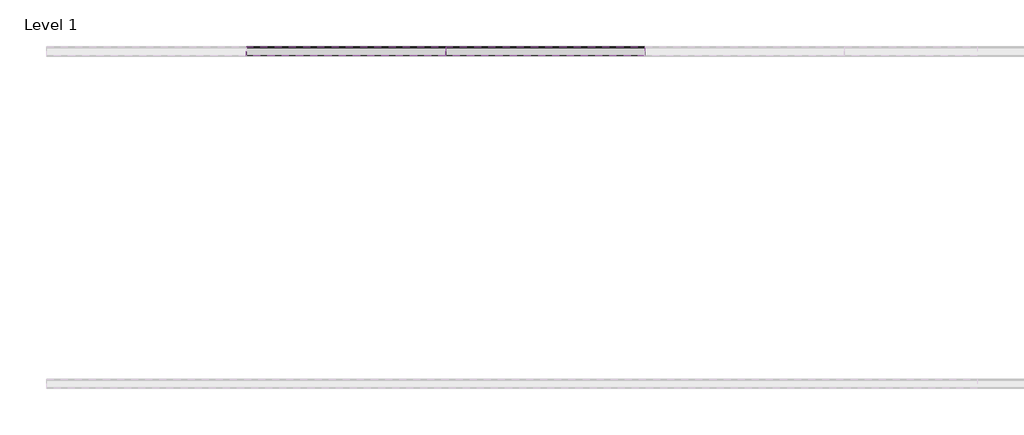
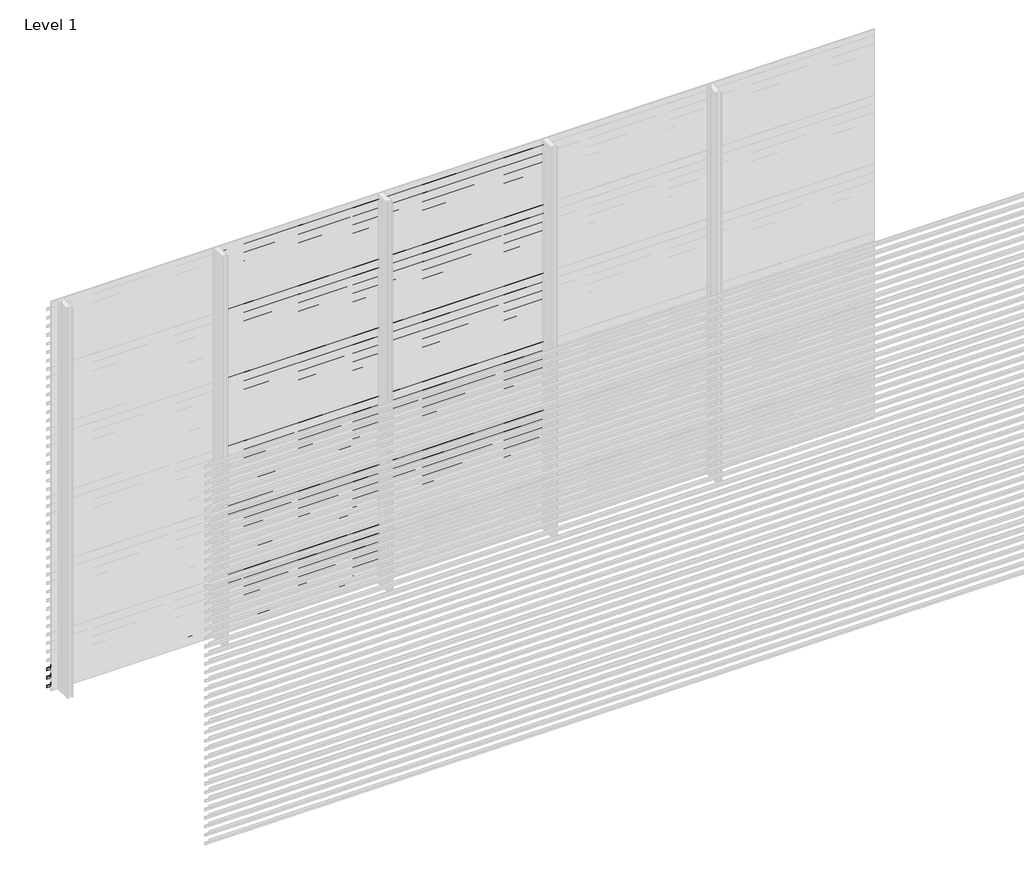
# One storey, part 26 of 540: 84 proxies.
"""IFC4 building model written with IfcOpenShell, lengths in millimetres."""

from ifc_helpers import new_model, si_unit, frame, origin, place, context, project, spatial, polyline, outline, extrude, element, save

model = new_model("IFC4")

# Units and contexts
model_context = context("Model", 3, world=origin())
ifc_project = project(units=[si_unit("LENGTHUNIT", "METRE", prefix="MILLI")], contexts=[model_context])

# Site, building, storey
site = spatial("IfcSite", under=ifc_project)
building = spatial("IfcBuilding", under=site)
storey = spatial("IfcBuildingStorey", under=building, Name="Level 1", Elevation=0.0)

# Proxies
placement = place(None, origin())
element("IfcBuildingElementProxy", 1, Name="Wall Sweeps", at=placement, inside=storey, context=model_context, shape_type="SweptSolid", body=[
    extrude(outline(polyline([(14038.0540136, 141.5), (14038.0540136, 121.5), (14036.8040136, 122.2216933), (14036.8040136, 140.7872415), (13983.0540136, 178.3158044), (13983.0540136, 198.0), (13984.3040136, 198.0), (13984.3040136, 179.0285629), (14038.0540136, 141.5)])), frame((466.6208097, 0.0, 0.0), z_axis=(1.0, 0.0, 0.0), x_axis=(0.0, 1.0, 0.0)), (0.0, 0.0, 1.0), 1200.0000002),
])
element("IfcBuildingElementProxy", 2, Name="Wall Sweeps", at=placement, inside=storey, context=model_context, shape_type="SweptSolid", body=[
    extrude(outline(polyline([(14038.0540136, 75.5), (14038.0540136, 55.5), (14036.8040136, 56.2216933), (14036.8040136, 74.7872415), (13983.0540136, 112.3158044), (13983.0540136, 132.0), (13984.3040136, 132.0), (13984.3040136, 113.0285629), (14038.0540136, 75.5)])), frame((466.6208097, 0.0, 0.0), z_axis=(1.0, 0.0, 0.0), x_axis=(0.0, 1.0, 0.0)), (0.0, 0.0, 1.0), 1200.0000002),
])
element("IfcBuildingElementProxy", 3, Name="Wall Sweeps", at=placement, inside=storey, context=model_context, shape_type="SweptSolid", body=[
    extrude(outline(polyline([(14038.0540136, 9.5), (14038.0540136, -10.5), (14036.8040136, -9.7783067), (14036.8040136, 8.7872415), (13983.0540136, 46.3158044), (13983.0540136, 66.0), (13984.3040136, 66.0), (13984.3040136, 47.0285629), (14038.0540136, 9.5)])), frame((466.6208097, 0.0, 0.0), z_axis=(1.0, 0.0, 0.0), x_axis=(0.0, 1.0, 0.0)), (0.0, 0.0, 1.0), 1200.0000002),
])
element("IfcBuildingElementProxy", 4, Name="Wall Sweeps", at=placement, inside=storey, context=model_context, shape_type="SweptSolid", body=[
    extrude(outline(polyline([(14038.0540136, 2913.5), (14038.0540136, 2893.5), (14036.8040136, 2894.2216933), (14036.8040136, 2912.7872415), (13983.0540136, 2950.3158044), (13983.0540136, 2970.0), (13984.3040136, 2970.0), (13984.3040136, 2951.0285629), (14038.0540136, 2913.5)])), frame((1666.6208099, 0.0, 0.0), z_axis=(1.0, 0.0, 0.0), x_axis=(0.0, 1.0, 0.0)), (0.0, 0.0, 1.0), 1199.9999999),
])
element("IfcBuildingElementProxy", 5, Name="Wall Sweeps", at=placement, inside=storey, context=model_context, shape_type="SweptSolid", body=[
    extrude(outline(polyline([(14038.0540136, 2847.5), (14038.0540136, 2827.5), (14036.8040136, 2828.2216933), (14036.8040136, 2846.7872415), (13983.0540136, 2884.3158044), (13983.0540136, 2904.0), (13984.3040136, 2904.0), (13984.3040136, 2885.0285629), (14038.0540136, 2847.5)])), frame((1666.6208099, 0.0, 0.0), z_axis=(1.0, 0.0, 0.0), x_axis=(0.0, 1.0, 0.0)), (0.0, 0.0, 1.0), 1199.9999999),
])
element("IfcBuildingElementProxy", 6, Name="Wall Sweeps", at=placement, inside=storey, context=model_context, shape_type="SweptSolid", body=[
    extrude(outline(polyline([(14038.0540136, 2781.5), (14038.0540136, 2761.5), (14036.8040136, 2762.2216933), (14036.8040136, 2780.7872415), (13983.0540136, 2818.3158044), (13983.0540136, 2838.0), (13984.3040136, 2838.0), (13984.3040136, 2819.0285629), (14038.0540136, 2781.5)])), frame((1666.6208099, 0.0, 0.0), z_axis=(1.0, 0.0, 0.0), x_axis=(0.0, 1.0, 0.0)), (0.0, 0.0, 1.0), 1199.9999999),
])
element("IfcBuildingElementProxy", 7, Name="Wall Sweeps", at=placement, inside=storey, context=model_context, shape_type="SweptSolid", body=[
    extrude(outline(polyline([(14038.0540136, 2715.5), (14038.0540136, 2695.5), (14036.8040136, 2696.2216933), (14036.8040136, 2714.7872415), (13983.0540136, 2752.3158044), (13983.0540136, 2772.0), (13984.3040136, 2772.0), (13984.3040136, 2753.0285629), (14038.0540136, 2715.5)])), frame((1666.6208099, 0.0, 0.0), z_axis=(1.0, 0.0, 0.0), x_axis=(0.0, 1.0, 0.0)), (0.0, 0.0, 1.0), 1199.9999999),
])
element("IfcBuildingElementProxy", 8, Name="Wall Sweeps", at=placement, inside=storey, context=model_context, shape_type="SweptSolid", body=[
    extrude(outline(polyline([(14038.0540136, 2649.5), (14038.0540136, 2629.5), (14036.8040136, 2630.2216933), (14036.8040136, 2648.7872415), (13983.0540136, 2686.3158044), (13983.0540136, 2706.0), (13984.3040136, 2706.0), (13984.3040136, 2687.0285629), (14038.0540136, 2649.5)])), frame((1666.6208099, 0.0, 0.0), z_axis=(1.0, 0.0, 0.0), x_axis=(0.0, 1.0, 0.0)), (0.0, 0.0, 1.0), 1199.9999999),
])
element("IfcBuildingElementProxy", 9, Name="Wall Sweeps", at=placement, inside=storey, context=model_context, shape_type="SweptSolid", body=[
    extrude(outline(polyline([(14038.0540136, 2583.5), (14038.0540136, 2563.5), (14036.8040136, 2564.2216933), (14036.8040136, 2582.7872415), (13983.0540136, 2620.3158044), (13983.0540136, 2640.0), (13984.3040136, 2640.0), (13984.3040136, 2621.0285629), (14038.0540136, 2583.5)])), frame((1666.6208099, 0.0, 0.0), z_axis=(1.0, 0.0, 0.0), x_axis=(0.0, 1.0, 0.0)), (0.0, 0.0, 1.0), 1199.9999999),
])
element("IfcBuildingElementProxy", 10, Name="Wall Sweeps", at=placement, inside=storey, context=model_context, shape_type="SweptSolid", body=[
    extrude(outline(polyline([(14038.0540136, 2517.5), (14038.0540136, 2497.5), (14036.8040136, 2498.2216933), (14036.8040136, 2516.7872415), (13983.0540136, 2554.3158044), (13983.0540136, 2574.0), (13984.3040136, 2574.0), (13984.3040136, 2555.0285629), (14038.0540136, 2517.5)])), frame((1666.6208099, 0.0, 0.0), z_axis=(1.0, 0.0, 0.0), x_axis=(0.0, 1.0, 0.0)), (0.0, 0.0, 1.0), 1199.9999999),
])
element("IfcBuildingElementProxy", 11, Name="Wall Sweeps", at=placement, inside=storey, context=model_context, shape_type="SweptSolid", body=[
    extrude(outline(polyline([(14038.0540136, 2451.5), (14038.0540136, 2431.5), (14036.8040136, 2432.2216933), (14036.8040136, 2450.7872415), (13983.0540136, 2488.3158044), (13983.0540136, 2508.0), (13984.3040136, 2508.0), (13984.3040136, 2489.0285629), (14038.0540136, 2451.5)])), frame((1666.6208099, 0.0, 0.0), z_axis=(1.0, 0.0, 0.0), x_axis=(0.0, 1.0, 0.0)), (0.0, 0.0, 1.0), 1199.9999999),
])
element("IfcBuildingElementProxy", 12, Name="Wall Sweeps", at=placement, inside=storey, context=model_context, shape_type="SweptSolid", body=[
    extrude(outline(polyline([(14038.0540136, 2385.5), (14038.0540136, 2365.5), (14036.8040136, 2366.2216933), (14036.8040136, 2384.7872415), (13983.0540136, 2422.3158044), (13983.0540136, 2442.0), (13984.3040136, 2442.0), (13984.3040136, 2423.0285629), (14038.0540136, 2385.5)])), frame((1666.6208099, 0.0, 0.0), z_axis=(1.0, 0.0, 0.0), x_axis=(0.0, 1.0, 0.0)), (0.0, 0.0, 1.0), 1199.9999999),
])
element("IfcBuildingElementProxy", 13, Name="Wall Sweeps", at=placement, inside=storey, context=model_context, shape_type="SweptSolid", body=[
    extrude(outline(polyline([(14038.0540136, 2319.5), (14038.0540136, 2299.5), (14036.8040136, 2300.2216933), (14036.8040136, 2318.7872415), (13983.0540136, 2356.3158044), (13983.0540136, 2376.0), (13984.3040136, 2376.0), (13984.3040136, 2357.0285629), (14038.0540136, 2319.5)])), frame((1666.6208099, 0.0, 0.0), z_axis=(1.0, 0.0, 0.0), x_axis=(0.0, 1.0, 0.0)), (0.0, 0.0, 1.0), 1199.9999999),
])
element("IfcBuildingElementProxy", 14, Name="Wall Sweeps", at=placement, inside=storey, context=model_context, shape_type="SweptSolid", body=[
    extrude(outline(polyline([(14038.0540136, 2253.5), (14038.0540136, 2233.5), (14036.8040136, 2234.2216933), (14036.8040136, 2252.7872415), (13983.0540136, 2290.3158044), (13983.0540136, 2310.0), (13984.3040136, 2310.0), (13984.3040136, 2291.0285629), (14038.0540136, 2253.5)])), frame((1666.6208099, 0.0, 0.0), z_axis=(1.0, 0.0, 0.0), x_axis=(0.0, 1.0, 0.0)), (0.0, 0.0, 1.0), 1199.9999999),
])
element("IfcBuildingElementProxy", 15, Name="Wall Sweeps", at=placement, inside=storey, context=model_context, shape_type="SweptSolid", body=[
    extrude(outline(polyline([(14038.0540136, 2187.5), (14038.0540136, 2167.5), (14036.8040136, 2168.2216933), (14036.8040136, 2186.7872415), (13983.0540136, 2224.3158044), (13983.0540136, 2244.0), (13984.3040136, 2244.0), (13984.3040136, 2225.0285629), (14038.0540136, 2187.5)])), frame((1666.6208099, 0.0, 0.0), z_axis=(1.0, 0.0, 0.0), x_axis=(0.0, 1.0, 0.0)), (0.0, 0.0, 1.0), 1199.9999999),
])
element("IfcBuildingElementProxy", 16, Name="Wall Sweeps", at=placement, inside=storey, context=model_context, shape_type="SweptSolid", body=[
    extrude(outline(polyline([(14038.0540136, 2121.5), (14038.0540136, 2101.5), (14036.8040136, 2102.2216933), (14036.8040136, 2120.7872415), (13983.0540136, 2158.3158044), (13983.0540136, 2178.0), (13984.3040136, 2178.0), (13984.3040136, 2159.0285629), (14038.0540136, 2121.5)])), frame((1666.6208099, 0.0, 0.0), z_axis=(1.0, 0.0, 0.0), x_axis=(0.0, 1.0, 0.0)), (0.0, 0.0, 1.0), 1199.9999999),
])
element("IfcBuildingElementProxy", 17, Name="Wall Sweeps", at=placement, inside=storey, context=model_context, shape_type="SweptSolid", body=[
    extrude(outline(polyline([(14038.0540136, 2055.5), (14038.0540136, 2035.5), (14036.8040136, 2036.2216933), (14036.8040136, 2054.7872415), (13983.0540136, 2092.3158044), (13983.0540136, 2112.0), (13984.3040136, 2112.0), (13984.3040136, 2093.0285629), (14038.0540136, 2055.5)])), frame((1666.6208099, 0.0, 0.0), z_axis=(1.0, 0.0, 0.0), x_axis=(0.0, 1.0, 0.0)), (0.0, 0.0, 1.0), 1199.9999999),
])
element("IfcBuildingElementProxy", 18, Name="Wall Sweeps", at=placement, inside=storey, context=model_context, shape_type="SweptSolid", body=[
    extrude(outline(polyline([(14038.0540136, 1989.5), (14038.0540136, 1969.5), (14036.8040136, 1970.2216933), (14036.8040136, 1988.7872415), (13983.0540136, 2026.3158044), (13983.0540136, 2046.0), (13984.3040136, 2046.0), (13984.3040136, 2027.0285629), (14038.0540136, 1989.5)])), frame((1666.6208099, 0.0, 0.0), z_axis=(1.0, 0.0, 0.0), x_axis=(0.0, 1.0, 0.0)), (0.0, 0.0, 1.0), 1199.9999999),
])
element("IfcBuildingElementProxy", 19, Name="Wall Sweeps", at=placement, inside=storey, context=model_context, shape_type="SweptSolid", body=[
    extrude(outline(polyline([(14038.0540136, 1923.5), (14038.0540136, 1903.5), (14036.8040136, 1904.2216933), (14036.8040136, 1922.7872415), (13983.0540136, 1960.3158044), (13983.0540136, 1980.0), (13984.3040136, 1980.0), (13984.3040136, 1961.0285629), (14038.0540136, 1923.5)])), frame((1666.6208099, 0.0, 0.0), z_axis=(1.0, 0.0, 0.0), x_axis=(0.0, 1.0, 0.0)), (0.0, 0.0, 1.0), 1199.9999999),
])
element("IfcBuildingElementProxy", 20, Name="Wall Sweeps", at=placement, inside=storey, context=model_context, shape_type="SweptSolid", body=[
    extrude(outline(polyline([(14038.0540136, 1857.5), (14038.0540136, 1837.5), (14036.8040136, 1838.2216933), (14036.8040136, 1856.7872415), (13983.0540136, 1894.3158044), (13983.0540136, 1914.0), (13984.3040136, 1914.0), (13984.3040136, 1895.0285629), (14038.0540136, 1857.5)])), frame((1666.6208099, 0.0, 0.0), z_axis=(1.0, 0.0, 0.0), x_axis=(0.0, 1.0, 0.0)), (0.0, 0.0, 1.0), 1199.9999999),
])
element("IfcBuildingElementProxy", 21, Name="Wall Sweeps", at=placement, inside=storey, context=model_context, shape_type="SweptSolid", body=[
    extrude(outline(polyline([(14038.0540136, 1791.5), (14038.0540136, 1771.5), (14036.8040136, 1772.2216933), (14036.8040136, 1790.7872415), (13983.0540136, 1828.3158044), (13983.0540136, 1848.0), (13984.3040136, 1848.0), (13984.3040136, 1829.0285629), (14038.0540136, 1791.5)])), frame((1666.6208099, 0.0, 0.0), z_axis=(1.0, 0.0, 0.0), x_axis=(0.0, 1.0, 0.0)), (0.0, 0.0, 1.0), 1199.9999999),
])
element("IfcBuildingElementProxy", 22, Name="Wall Sweeps", at=placement, inside=storey, context=model_context, shape_type="SweptSolid", body=[
    extrude(outline(polyline([(14038.0540136, 1725.5), (14038.0540136, 1705.5), (14036.8040136, 1706.2216933), (14036.8040136, 1724.7872415), (13983.0540136, 1762.3158044), (13983.0540136, 1782.0), (13984.3040136, 1782.0), (13984.3040136, 1763.0285629), (14038.0540136, 1725.5)])), frame((1666.6208099, 0.0, 0.0), z_axis=(1.0, 0.0, 0.0), x_axis=(0.0, 1.0, 0.0)), (0.0, 0.0, 1.0), 1199.9999999),
])
element("IfcBuildingElementProxy", 23, Name="Wall Sweeps", at=placement, inside=storey, context=model_context, shape_type="SweptSolid", body=[
    extrude(outline(polyline([(14038.0540136, 1659.5), (14038.0540136, 1639.5), (14036.8040136, 1640.2216933), (14036.8040136, 1658.7872415), (13983.0540136, 1696.3158044), (13983.0540136, 1716.0), (13984.3040136, 1716.0), (13984.3040136, 1697.0285629), (14038.0540136, 1659.5)])), frame((1666.6208099, 0.0, 0.0), z_axis=(1.0, 0.0, 0.0), x_axis=(0.0, 1.0, 0.0)), (0.0, 0.0, 1.0), 1199.9999999),
])
element("IfcBuildingElementProxy", 24, Name="Wall Sweeps", at=placement, inside=storey, context=model_context, shape_type="SweptSolid", body=[
    extrude(outline(polyline([(14038.0540136, 1593.5), (14038.0540136, 1573.5), (14036.8040136, 1574.2216933), (14036.8040136, 1592.7872415), (13983.0540136, 1630.3158044), (13983.0540136, 1650.0), (13984.3040136, 1650.0), (13984.3040136, 1631.0285629), (14038.0540136, 1593.5)])), frame((1666.6208099, 0.0, 0.0), z_axis=(1.0, 0.0, 0.0), x_axis=(0.0, 1.0, 0.0)), (0.0, 0.0, 1.0), 1199.9999999),
])
element("IfcBuildingElementProxy", 25, Name="Wall Sweeps", at=placement, inside=storey, context=model_context, shape_type="SweptSolid", body=[
    extrude(outline(polyline([(14038.0540136, 1527.5), (14038.0540136, 1507.5), (14036.8040136, 1508.2216933), (14036.8040136, 1526.7872415), (13983.0540136, 1564.3158044), (13983.0540136, 1584.0), (13984.3040136, 1584.0), (13984.3040136, 1565.0285629), (14038.0540136, 1527.5)])), frame((1666.6208099, 0.0, 0.0), z_axis=(1.0, 0.0, 0.0), x_axis=(0.0, 1.0, 0.0)), (0.0, 0.0, 1.0), 1199.9999999),
])
element("IfcBuildingElementProxy", 26, Name="Wall Sweeps", at=placement, inside=storey, context=model_context, shape_type="SweptSolid", body=[
    extrude(outline(polyline([(14038.0540136, 1461.5), (14038.0540136, 1441.5), (14036.8040136, 1442.2216933), (14036.8040136, 1460.7872415), (13983.0540136, 1498.3158044), (13983.0540136, 1518.0), (13984.3040136, 1518.0), (13984.3040136, 1499.0285629), (14038.0540136, 1461.5)])), frame((1666.6208099, 0.0, 0.0), z_axis=(1.0, 0.0, 0.0), x_axis=(0.0, 1.0, 0.0)), (0.0, 0.0, 1.0), 1199.9999999),
])
element("IfcBuildingElementProxy", 27, Name="Wall Sweeps", at=placement, inside=storey, context=model_context, shape_type="SweptSolid", body=[
    extrude(outline(polyline([(14038.0540136, 1395.5), (14038.0540136, 1375.5), (14036.8040136, 1376.2216933), (14036.8040136, 1394.7872415), (13983.0540136, 1432.3158044), (13983.0540136, 1452.0), (13984.3040136, 1452.0), (13984.3040136, 1433.0285629), (14038.0540136, 1395.5)])), frame((1666.6208099, 0.0, 0.0), z_axis=(1.0, 0.0, 0.0), x_axis=(0.0, 1.0, 0.0)), (0.0, 0.0, 1.0), 1199.9999999),
])
element("IfcBuildingElementProxy", 28, Name="Wall Sweeps", at=placement, inside=storey, context=model_context, shape_type="SweptSolid", body=[
    extrude(outline(polyline([(14038.0540136, 1329.5), (14038.0540136, 1309.5), (14036.8040136, 1310.2216933), (14036.8040136, 1328.7872415), (13983.0540136, 1366.3158044), (13983.0540136, 1386.0), (13984.3040136, 1386.0), (13984.3040136, 1367.0285629), (14038.0540136, 1329.5)])), frame((1666.6208099, 0.0, 0.0), z_axis=(1.0, 0.0, 0.0), x_axis=(0.0, 1.0, 0.0)), (0.0, 0.0, 1.0), 1199.9999999),
])
element("IfcBuildingElementProxy", 29, Name="Wall Sweeps", at=placement, inside=storey, context=model_context, shape_type="SweptSolid", body=[
    extrude(outline(polyline([(14038.0540136, 1263.5), (14038.0540136, 1243.5), (14036.8040136, 1244.2216933), (14036.8040136, 1262.7872415), (13983.0540136, 1300.3158044), (13983.0540136, 1320.0), (13984.3040136, 1320.0), (13984.3040136, 1301.0285629), (14038.0540136, 1263.5)])), frame((1666.6208099, 0.0, 0.0), z_axis=(1.0, 0.0, 0.0), x_axis=(0.0, 1.0, 0.0)), (0.0, 0.0, 1.0), 1199.9999999),
])
element("IfcBuildingElementProxy", 30, Name="Wall Sweeps", at=placement, inside=storey, context=model_context, shape_type="SweptSolid", body=[
    extrude(outline(polyline([(14038.0540136, 1197.5), (14038.0540136, 1177.5), (14036.8040136, 1178.2216933), (14036.8040136, 1196.7872415), (13983.0540136, 1234.3158044), (13983.0540136, 1254.0), (13984.3040136, 1254.0), (13984.3040136, 1235.0285629), (14038.0540136, 1197.5)])), frame((1666.6208099, 0.0, 0.0), z_axis=(1.0, 0.0, 0.0), x_axis=(0.0, 1.0, 0.0)), (0.0, 0.0, 1.0), 1199.9999999),
])
element("IfcBuildingElementProxy", 31, Name="Wall Sweeps", at=placement, inside=storey, context=model_context, shape_type="SweptSolid", body=[
    extrude(outline(polyline([(14038.0540136, 1131.5), (14038.0540136, 1111.5), (14036.8040136, 1112.2216933), (14036.8040136, 1130.7872415), (13983.0540136, 1168.3158044), (13983.0540136, 1188.0), (13984.3040136, 1188.0), (13984.3040136, 1169.0285629), (14038.0540136, 1131.5)])), frame((1666.6208099, 0.0, 0.0), z_axis=(1.0, 0.0, 0.0), x_axis=(0.0, 1.0, 0.0)), (0.0, 0.0, 1.0), 1199.9999999),
])
element("IfcBuildingElementProxy", 32, Name="Wall Sweeps", at=placement, inside=storey, context=model_context, shape_type="SweptSolid", body=[
    extrude(outline(polyline([(14038.0540136, 1065.5), (14038.0540136, 1045.5), (14036.8040136, 1046.2216933), (14036.8040136, 1064.7872415), (13983.0540136, 1102.3158044), (13983.0540136, 1122.0), (13984.3040136, 1122.0), (13984.3040136, 1103.0285629), (14038.0540136, 1065.5)])), frame((1666.6208099, 0.0, 0.0), z_axis=(1.0, 0.0, 0.0), x_axis=(0.0, 1.0, 0.0)), (0.0, 0.0, 1.0), 1199.9999999),
])
element("IfcBuildingElementProxy", 33, Name="Wall Sweeps", at=placement, inside=storey, context=model_context, shape_type="SweptSolid", body=[
    extrude(outline(polyline([(14038.0540136, 999.5), (14038.0540136, 979.5), (14036.8040136, 980.2216933), (14036.8040136, 998.7872415), (13983.0540136, 1036.3158044), (13983.0540136, 1056.0), (13984.3040136, 1056.0), (13984.3040136, 1037.0285629), (14038.0540136, 999.5)])), frame((1666.6208099, 0.0, 0.0), z_axis=(1.0, 0.0, 0.0), x_axis=(0.0, 1.0, 0.0)), (0.0, 0.0, 1.0), 1199.9999999),
])
element("IfcBuildingElementProxy", 34, Name="Wall Sweeps", at=placement, inside=storey, context=model_context, shape_type="SweptSolid", body=[
    extrude(outline(polyline([(14038.0540136, 933.5), (14038.0540136, 913.5), (14036.8040136, 914.2216933), (14036.8040136, 932.7872415), (13983.0540136, 970.3158044), (13983.0540136, 990.0), (13984.3040136, 990.0), (13984.3040136, 971.0285629), (14038.0540136, 933.5)])), frame((1666.6208099, 0.0, 0.0), z_axis=(1.0, 0.0, 0.0), x_axis=(0.0, 1.0, 0.0)), (0.0, 0.0, 1.0), 1199.9999999),
])
element("IfcBuildingElementProxy", 35, Name="Wall Sweeps", at=placement, inside=storey, context=model_context, shape_type="SweptSolid", body=[
    extrude(outline(polyline([(14038.0540136, 867.5), (14038.0540136, 847.5), (14036.8040136, 848.2216933), (14036.8040136, 866.7872415), (13983.0540136, 904.3158044), (13983.0540136, 924.0), (13984.3040136, 924.0), (13984.3040136, 905.0285629), (14038.0540136, 867.5)])), frame((1666.6208099, 0.0, 0.0), z_axis=(1.0, 0.0, 0.0), x_axis=(0.0, 1.0, 0.0)), (0.0, 0.0, 1.0), 1199.9999999),
])
element("IfcBuildingElementProxy", 36, Name="Wall Sweeps", at=placement, inside=storey, context=model_context, shape_type="SweptSolid", body=[
    extrude(outline(polyline([(14038.0540136, 801.5), (14038.0540136, 781.5), (14036.8040136, 782.2216933), (14036.8040136, 800.7872415), (13983.0540136, 838.3158044), (13983.0540136, 858.0), (13984.3040136, 858.0), (13984.3040136, 839.0285629), (14038.0540136, 801.5)])), frame((1666.6208099, 0.0, 0.0), z_axis=(1.0, 0.0, 0.0), x_axis=(0.0, 1.0, 0.0)), (0.0, 0.0, 1.0), 1199.9999999),
])
element("IfcBuildingElementProxy", 37, Name="Wall Sweeps", at=placement, inside=storey, context=model_context, shape_type="SweptSolid", body=[
    extrude(outline(polyline([(14038.0540136, 735.5), (14038.0540136, 715.5), (14036.8040136, 716.2216933), (14036.8040136, 734.7872415), (13983.0540136, 772.3158044), (13983.0540136, 792.0), (13984.3040136, 792.0), (13984.3040136, 773.0285629), (14038.0540136, 735.5)])), frame((1666.6208099, 0.0, 0.0), z_axis=(1.0, 0.0, 0.0), x_axis=(0.0, 1.0, 0.0)), (0.0, 0.0, 1.0), 1199.9999999),
])
element("IfcBuildingElementProxy", 38, Name="Wall Sweeps", at=placement, inside=storey, context=model_context, shape_type="SweptSolid", body=[
    extrude(outline(polyline([(14038.0540136, 669.5), (14038.0540136, 649.5), (14036.8040136, 650.2216933), (14036.8040136, 668.7872415), (13983.0540136, 706.3158044), (13983.0540136, 726.0), (13984.3040136, 726.0), (13984.3040136, 707.0285629), (14038.0540136, 669.5)])), frame((1666.6208099, 0.0, 0.0), z_axis=(1.0, 0.0, 0.0), x_axis=(0.0, 1.0, 0.0)), (0.0, 0.0, 1.0), 1199.9999999),
])
element("IfcBuildingElementProxy", 39, Name="Wall Sweeps", at=placement, inside=storey, context=model_context, shape_type="SweptSolid", body=[
    extrude(outline(polyline([(14038.0540136, 603.5), (14038.0540136, 583.5), (14036.8040136, 584.2216933), (14036.8040136, 602.7872415), (13983.0540136, 640.3158044), (13983.0540136, 660.0), (13984.3040136, 660.0), (13984.3040136, 641.0285629), (14038.0540136, 603.5)])), frame((1666.6208099, 0.0, 0.0), z_axis=(1.0, 0.0, 0.0), x_axis=(0.0, 1.0, 0.0)), (0.0, 0.0, 1.0), 1199.9999999),
])
element("IfcBuildingElementProxy", 40, Name="Wall Sweeps", at=placement, inside=storey, context=model_context, shape_type="SweptSolid", body=[
    extrude(outline(polyline([(14038.0540136, 537.5), (14038.0540136, 517.5), (14036.8040136, 518.2216933), (14036.8040136, 536.7872415), (13983.0540136, 574.3158044), (13983.0540136, 594.0), (13984.3040136, 594.0), (13984.3040136, 575.0285629), (14038.0540136, 537.5)])), frame((1666.6208099, 0.0, 0.0), z_axis=(1.0, 0.0, 0.0), x_axis=(0.0, 1.0, 0.0)), (0.0, 0.0, 1.0), 1199.9999999),
])
element("IfcBuildingElementProxy", 41, Name="Wall Sweeps", at=placement, inside=storey, context=model_context, shape_type="SweptSolid", body=[
    extrude(outline(polyline([(14038.0540136, 471.5), (14038.0540136, 451.5), (14036.8040136, 452.2216933), (14036.8040136, 470.7872415), (13983.0540136, 508.3158044), (13983.0540136, 528.0), (13984.3040136, 528.0), (13984.3040136, 509.0285629), (14038.0540136, 471.5)])), frame((1666.6208099, 0.0, 0.0), z_axis=(1.0, 0.0, 0.0), x_axis=(0.0, 1.0, 0.0)), (0.0, 0.0, 1.0), 1199.9999999),
])
element("IfcBuildingElementProxy", 42, Name="Wall Sweeps", at=placement, inside=storey, context=model_context, shape_type="SweptSolid", body=[
    extrude(outline(polyline([(14038.0540136, 405.5), (14038.0540136, 385.5), (14036.8040136, 386.2216933), (14036.8040136, 404.7872415), (13983.0540136, 442.3158044), (13983.0540136, 462.0), (13984.3040136, 462.0), (13984.3040136, 443.0285629), (14038.0540136, 405.5)])), frame((1666.6208099, 0.0, 0.0), z_axis=(1.0, 0.0, 0.0), x_axis=(0.0, 1.0, 0.0)), (0.0, 0.0, 1.0), 1199.9999999),
])
element("IfcBuildingElementProxy", 43, Name="Wall Sweeps", at=placement, inside=storey, context=model_context, shape_type="SweptSolid", body=[
    extrude(outline(polyline([(14038.0540136, 339.5), (14038.0540136, 319.5), (14036.8040136, 320.2216933), (14036.8040136, 338.7872415), (13983.0540136, 376.3158044), (13983.0540136, 396.0), (13984.3040136, 396.0), (13984.3040136, 377.0285629), (14038.0540136, 339.5)])), frame((1666.6208099, 0.0, 0.0), z_axis=(1.0, 0.0, 0.0), x_axis=(0.0, 1.0, 0.0)), (0.0, 0.0, 1.0), 1199.9999999),
])
element("IfcBuildingElementProxy", 44, Name="Wall Sweeps", at=placement, inside=storey, context=model_context, shape_type="SweptSolid", body=[
    extrude(outline(polyline([(14038.0540136, 273.5), (14038.0540136, 253.5), (14036.8040136, 254.2216933), (14036.8040136, 272.7872415), (13983.0540136, 310.3158044), (13983.0540136, 330.0), (13984.3040136, 330.0), (13984.3040136, 311.0285629), (14038.0540136, 273.5)])), frame((1666.6208099, 0.0, 0.0), z_axis=(1.0, 0.0, 0.0), x_axis=(0.0, 1.0, 0.0)), (0.0, 0.0, 1.0), 1199.9999999),
])
element("IfcBuildingElementProxy", 45, Name="Wall Sweeps", at=placement, inside=storey, context=model_context, shape_type="SweptSolid", body=[
    extrude(outline(polyline([(14038.0540136, 207.5), (14038.0540136, 187.5), (14036.8040136, 188.2216933), (14036.8040136, 206.7872415), (13983.0540136, 244.3158044), (13983.0540136, 264.0), (13984.3040136, 264.0), (13984.3040136, 245.0285629), (14038.0540136, 207.5)])), frame((1666.6208099, 0.0, 0.0), z_axis=(1.0, 0.0, 0.0), x_axis=(0.0, 1.0, 0.0)), (0.0, 0.0, 1.0), 1199.9999999),
])
element("IfcBuildingElementProxy", 46, Name="Wall Sweeps", at=placement, inside=storey, context=model_context, shape_type="SweptSolid", body=[
    extrude(outline(polyline([(14038.0540136, 141.5), (14038.0540136, 121.5), (14036.8040136, 122.2216933), (14036.8040136, 140.7872415), (13983.0540136, 178.3158044), (13983.0540136, 198.0), (13984.3040136, 198.0), (13984.3040136, 179.0285629), (14038.0540136, 141.5)])), frame((1666.6208099, 0.0, 0.0), z_axis=(1.0, 0.0, 0.0), x_axis=(0.0, 1.0, 0.0)), (0.0, 0.0, 1.0), 1199.9999999),
])
element("IfcBuildingElementProxy", 47, Name="Wall Sweeps", at=placement, inside=storey, context=model_context, shape_type="SweptSolid", body=[
    extrude(outline(polyline([(14038.0540136, 75.5), (14038.0540136, 55.5), (14036.8040136, 56.2216933), (14036.8040136, 74.7872415), (13983.0540136, 112.3158044), (13983.0540136, 132.0), (13984.3040136, 132.0), (13984.3040136, 113.0285629), (14038.0540136, 75.5)])), frame((1666.6208099, 0.0, 0.0), z_axis=(1.0, 0.0, 0.0), x_axis=(0.0, 1.0, 0.0)), (0.0, 0.0, 1.0), 1199.9999999),
])
element("IfcBuildingElementProxy", 48, Name="Wall Sweeps", at=placement, inside=storey, context=model_context, shape_type="SweptSolid", body=[
    extrude(outline(polyline([(14038.0540136, 9.5), (14038.0540136, -10.5), (14036.8040136, -9.7783067), (14036.8040136, 8.7872415), (13983.0540136, 46.3158044), (13983.0540136, 66.0), (13984.3040136, 66.0), (13984.3040136, 47.0285629), (14038.0540136, 9.5)])), frame((1666.6208099, 0.0, 0.0), z_axis=(1.0, 0.0, 0.0), x_axis=(0.0, 1.0, 0.0)), (0.0, 0.0, 1.0), 1199.9999999),
])
element("IfcBuildingElementProxy", 49, Name="Wall Sweeps", at=placement, inside=storey, context=model_context, shape_type="SweptSolid", body=[
    extrude(outline(polyline([(14038.0540136, 2913.5), (14038.0540136, 2893.5), (14036.8040136, 2894.2216933), (14036.8040136, 2912.7872415), (13983.0540136, 2950.3158044), (13983.0540136, 2970.0), (13984.3040136, 2970.0), (13984.3040136, 2951.0285629), (14038.0540136, 2913.5)])), frame((2866.6208097, 0.0, 0.0), z_axis=(1.0, 0.0, 0.0), x_axis=(0.0, 1.0, 0.0)), (0.0, 0.0, 1.0), 1199.9999999),
])
element("IfcBuildingElementProxy", 50, Name="Wall Sweeps", at=placement, inside=storey, context=model_context, shape_type="SweptSolid", body=[
    extrude(outline(polyline([(14038.0540136, 2847.5), (14038.0540136, 2827.5), (14036.8040136, 2828.2216933), (14036.8040136, 2846.7872415), (13983.0540136, 2884.3158044), (13983.0540136, 2904.0), (13984.3040136, 2904.0), (13984.3040136, 2885.0285629), (14038.0540136, 2847.5)])), frame((2866.6208097, 0.0, 0.0), z_axis=(1.0, 0.0, 0.0), x_axis=(0.0, 1.0, 0.0)), (0.0, 0.0, 1.0), 1199.9999999),
])
element("IfcBuildingElementProxy", 51, Name="Wall Sweeps", at=placement, inside=storey, context=model_context, shape_type="SweptSolid", body=[
    extrude(outline(polyline([(14038.0540136, 2781.5), (14038.0540136, 2761.5), (14036.8040136, 2762.2216933), (14036.8040136, 2780.7872415), (13983.0540136, 2818.3158044), (13983.0540136, 2838.0), (13984.3040136, 2838.0), (13984.3040136, 2819.0285629), (14038.0540136, 2781.5)])), frame((2866.6208097, 0.0, 0.0), z_axis=(1.0, 0.0, 0.0), x_axis=(0.0, 1.0, 0.0)), (0.0, 0.0, 1.0), 1199.9999999),
])
element("IfcBuildingElementProxy", 52, Name="Wall Sweeps", at=placement, inside=storey, context=model_context, shape_type="SweptSolid", body=[
    extrude(outline(polyline([(14038.0540136, 2715.5), (14038.0540136, 2695.5), (14036.8040136, 2696.2216933), (14036.8040136, 2714.7872415), (13983.0540136, 2752.3158044), (13983.0540136, 2772.0), (13984.3040136, 2772.0), (13984.3040136, 2753.0285629), (14038.0540136, 2715.5)])), frame((2866.6208097, 0.0, 0.0), z_axis=(1.0, 0.0, 0.0), x_axis=(0.0, 1.0, 0.0)), (0.0, 0.0, 1.0), 1199.9999999),
])
element("IfcBuildingElementProxy", 53, Name="Wall Sweeps", at=placement, inside=storey, context=model_context, shape_type="SweptSolid", body=[
    extrude(outline(polyline([(14038.0540136, 2649.5), (14038.0540136, 2629.5), (14036.8040136, 2630.2216933), (14036.8040136, 2648.7872415), (13983.0540136, 2686.3158044), (13983.0540136, 2706.0), (13984.3040136, 2706.0), (13984.3040136, 2687.0285629), (14038.0540136, 2649.5)])), frame((2866.6208097, 0.0, 0.0), z_axis=(1.0, 0.0, 0.0), x_axis=(0.0, 1.0, 0.0)), (0.0, 0.0, 1.0), 1199.9999999),
])
element("IfcBuildingElementProxy", 54, Name="Wall Sweeps", at=placement, inside=storey, context=model_context, shape_type="SweptSolid", body=[
    extrude(outline(polyline([(14038.0540136, 2583.5), (14038.0540136, 2563.5), (14036.8040136, 2564.2216933), (14036.8040136, 2582.7872415), (13983.0540136, 2620.3158044), (13983.0540136, 2640.0), (13984.3040136, 2640.0), (13984.3040136, 2621.0285629), (14038.0540136, 2583.5)])), frame((2866.6208097, 0.0, 0.0), z_axis=(1.0, 0.0, 0.0), x_axis=(0.0, 1.0, 0.0)), (0.0, 0.0, 1.0), 1199.9999999),
])
element("IfcBuildingElementProxy", 55, Name="Wall Sweeps", at=placement, inside=storey, context=model_context, shape_type="SweptSolid", body=[
    extrude(outline(polyline([(14038.0540136, 2517.5), (14038.0540136, 2497.5), (14036.8040136, 2498.2216933), (14036.8040136, 2516.7872415), (13983.0540136, 2554.3158044), (13983.0540136, 2574.0), (13984.3040136, 2574.0), (13984.3040136, 2555.0285629), (14038.0540136, 2517.5)])), frame((2866.6208097, 0.0, 0.0), z_axis=(1.0, 0.0, 0.0), x_axis=(0.0, 1.0, 0.0)), (0.0, 0.0, 1.0), 1199.9999999),
])
element("IfcBuildingElementProxy", 56, Name="Wall Sweeps", at=placement, inside=storey, context=model_context, shape_type="SweptSolid", body=[
    extrude(outline(polyline([(14038.0540136, 2451.5), (14038.0540136, 2431.5), (14036.8040136, 2432.2216933), (14036.8040136, 2450.7872415), (13983.0540136, 2488.3158044), (13983.0540136, 2508.0), (13984.3040136, 2508.0), (13984.3040136, 2489.0285629), (14038.0540136, 2451.5)])), frame((2866.6208097, 0.0, 0.0), z_axis=(1.0, 0.0, 0.0), x_axis=(0.0, 1.0, 0.0)), (0.0, 0.0, 1.0), 1199.9999999),
])
element("IfcBuildingElementProxy", 57, Name="Wall Sweeps", at=placement, inside=storey, context=model_context, shape_type="SweptSolid", body=[
    extrude(outline(polyline([(14038.0540136, 2385.5), (14038.0540136, 2365.5), (14036.8040136, 2366.2216933), (14036.8040136, 2384.7872415), (13983.0540136, 2422.3158044), (13983.0540136, 2442.0), (13984.3040136, 2442.0), (13984.3040136, 2423.0285629), (14038.0540136, 2385.5)])), frame((2866.6208097, 0.0, 0.0), z_axis=(1.0, 0.0, 0.0), x_axis=(0.0, 1.0, 0.0)), (0.0, 0.0, 1.0), 1199.9999999),
])
element("IfcBuildingElementProxy", 58, Name="Wall Sweeps", at=placement, inside=storey, context=model_context, shape_type="SweptSolid", body=[
    extrude(outline(polyline([(14038.0540136, 2319.5), (14038.0540136, 2299.5), (14036.8040136, 2300.2216933), (14036.8040136, 2318.7872415), (13983.0540136, 2356.3158044), (13983.0540136, 2376.0), (13984.3040136, 2376.0), (13984.3040136, 2357.0285629), (14038.0540136, 2319.5)])), frame((2866.6208097, 0.0, 0.0), z_axis=(1.0, 0.0, 0.0), x_axis=(0.0, 1.0, 0.0)), (0.0, 0.0, 1.0), 1199.9999999),
])
element("IfcBuildingElementProxy", 59, Name="Wall Sweeps", at=placement, inside=storey, context=model_context, shape_type="SweptSolid", body=[
    extrude(outline(polyline([(14038.0540136, 2253.5), (14038.0540136, 2233.5), (14036.8040136, 2234.2216933), (14036.8040136, 2252.7872415), (13983.0540136, 2290.3158044), (13983.0540136, 2310.0), (13984.3040136, 2310.0), (13984.3040136, 2291.0285629), (14038.0540136, 2253.5)])), frame((2866.6208097, 0.0, 0.0), z_axis=(1.0, 0.0, 0.0), x_axis=(0.0, 1.0, 0.0)), (0.0, 0.0, 1.0), 1199.9999999),
])
element("IfcBuildingElementProxy", 60, Name="Wall Sweeps", at=placement, inside=storey, context=model_context, shape_type="SweptSolid", body=[
    extrude(outline(polyline([(14038.0540136, 2187.5), (14038.0540136, 2167.5), (14036.8040136, 2168.2216933), (14036.8040136, 2186.7872415), (13983.0540136, 2224.3158044), (13983.0540136, 2244.0), (13984.3040136, 2244.0), (13984.3040136, 2225.0285629), (14038.0540136, 2187.5)])), frame((2866.6208097, 0.0, 0.0), z_axis=(1.0, 0.0, 0.0), x_axis=(0.0, 1.0, 0.0)), (0.0, 0.0, 1.0), 1199.9999999),
])
element("IfcBuildingElementProxy", 61, Name="Wall Sweeps", at=placement, inside=storey, context=model_context, shape_type="SweptSolid", body=[
    extrude(outline(polyline([(14038.0540136, 2121.5), (14038.0540136, 2101.5), (14036.8040136, 2102.2216933), (14036.8040136, 2120.7872415), (13983.0540136, 2158.3158044), (13983.0540136, 2178.0), (13984.3040136, 2178.0), (13984.3040136, 2159.0285629), (14038.0540136, 2121.5)])), frame((2866.6208097, 0.0, 0.0), z_axis=(1.0, 0.0, 0.0), x_axis=(0.0, 1.0, 0.0)), (0.0, 0.0, 1.0), 1199.9999999),
])
element("IfcBuildingElementProxy", 62, Name="Wall Sweeps", at=placement, inside=storey, context=model_context, shape_type="SweptSolid", body=[
    extrude(outline(polyline([(14038.0540136, 2055.5), (14038.0540136, 2035.5), (14036.8040136, 2036.2216933), (14036.8040136, 2054.7872415), (13983.0540136, 2092.3158044), (13983.0540136, 2112.0), (13984.3040136, 2112.0), (13984.3040136, 2093.0285629), (14038.0540136, 2055.5)])), frame((2866.6208097, 0.0, 0.0), z_axis=(1.0, 0.0, 0.0), x_axis=(0.0, 1.0, 0.0)), (0.0, 0.0, 1.0), 1199.9999999),
])
element("IfcBuildingElementProxy", 63, Name="Wall Sweeps", at=placement, inside=storey, context=model_context, shape_type="SweptSolid", body=[
    extrude(outline(polyline([(14038.0540136, 1989.5), (14038.0540136, 1969.5), (14036.8040136, 1970.2216933), (14036.8040136, 1988.7872415), (13983.0540136, 2026.3158044), (13983.0540136, 2046.0), (13984.3040136, 2046.0), (13984.3040136, 2027.0285629), (14038.0540136, 1989.5)])), frame((2866.6208097, 0.0, 0.0), z_axis=(1.0, 0.0, 0.0), x_axis=(0.0, 1.0, 0.0)), (0.0, 0.0, 1.0), 1199.9999999),
])
element("IfcBuildingElementProxy", 64, Name="Wall Sweeps", at=placement, inside=storey, context=model_context, shape_type="SweptSolid", body=[
    extrude(outline(polyline([(14038.0540136, 1923.5), (14038.0540136, 1903.5), (14036.8040136, 1904.2216933), (14036.8040136, 1922.7872415), (13983.0540136, 1960.3158044), (13983.0540136, 1980.0), (13984.3040136, 1980.0), (13984.3040136, 1961.0285629), (14038.0540136, 1923.5)])), frame((2866.6208097, 0.0, 0.0), z_axis=(1.0, 0.0, 0.0), x_axis=(0.0, 1.0, 0.0)), (0.0, 0.0, 1.0), 1199.9999999),
])
element("IfcBuildingElementProxy", 65, Name="Wall Sweeps", at=placement, inside=storey, context=model_context, shape_type="SweptSolid", body=[
    extrude(outline(polyline([(14038.0540136, 1857.5), (14038.0540136, 1837.5), (14036.8040136, 1838.2216933), (14036.8040136, 1856.7872415), (13983.0540136, 1894.3158044), (13983.0540136, 1914.0), (13984.3040136, 1914.0), (13984.3040136, 1895.0285629), (14038.0540136, 1857.5)])), frame((2866.6208097, 0.0, 0.0), z_axis=(1.0, 0.0, 0.0), x_axis=(0.0, 1.0, 0.0)), (0.0, 0.0, 1.0), 1199.9999999),
])
element("IfcBuildingElementProxy", 66, Name="Wall Sweeps", at=placement, inside=storey, context=model_context, shape_type="SweptSolid", body=[
    extrude(outline(polyline([(14038.0540136, 1791.5), (14038.0540136, 1771.5), (14036.8040136, 1772.2216933), (14036.8040136, 1790.7872415), (13983.0540136, 1828.3158044), (13983.0540136, 1848.0), (13984.3040136, 1848.0), (13984.3040136, 1829.0285629), (14038.0540136, 1791.5)])), frame((2866.6208097, 0.0, 0.0), z_axis=(1.0, 0.0, 0.0), x_axis=(0.0, 1.0, 0.0)), (0.0, 0.0, 1.0), 1199.9999999),
])
element("IfcBuildingElementProxy", 67, Name="Wall Sweeps", at=placement, inside=storey, context=model_context, shape_type="SweptSolid", body=[
    extrude(outline(polyline([(14038.0540136, 1725.5), (14038.0540136, 1705.5), (14036.8040136, 1706.2216933), (14036.8040136, 1724.7872415), (13983.0540136, 1762.3158044), (13983.0540136, 1782.0), (13984.3040136, 1782.0), (13984.3040136, 1763.0285629), (14038.0540136, 1725.5)])), frame((2866.6208097, 0.0, 0.0), z_axis=(1.0, 0.0, 0.0), x_axis=(0.0, 1.0, 0.0)), (0.0, 0.0, 1.0), 1199.9999999),
])
element("IfcBuildingElementProxy", 68, Name="Wall Sweeps", at=placement, inside=storey, context=model_context, shape_type="SweptSolid", body=[
    extrude(outline(polyline([(14038.0540136, 1659.5), (14038.0540136, 1639.5), (14036.8040136, 1640.2216933), (14036.8040136, 1658.7872415), (13983.0540136, 1696.3158044), (13983.0540136, 1716.0), (13984.3040136, 1716.0), (13984.3040136, 1697.0285629), (14038.0540136, 1659.5)])), frame((2866.6208097, 0.0, 0.0), z_axis=(1.0, 0.0, 0.0), x_axis=(0.0, 1.0, 0.0)), (0.0, 0.0, 1.0), 1199.9999999),
])
element("IfcBuildingElementProxy", 69, Name="Wall Sweeps", at=placement, inside=storey, context=model_context, shape_type="SweptSolid", body=[
    extrude(outline(polyline([(14038.0540136, 1593.5), (14038.0540136, 1573.5), (14036.8040136, 1574.2216933), (14036.8040136, 1592.7872415), (13983.0540136, 1630.3158044), (13983.0540136, 1650.0), (13984.3040136, 1650.0), (13984.3040136, 1631.0285629), (14038.0540136, 1593.5)])), frame((2866.6208097, 0.0, 0.0), z_axis=(1.0, 0.0, 0.0), x_axis=(0.0, 1.0, 0.0)), (0.0, 0.0, 1.0), 1199.9999999),
])
element("IfcBuildingElementProxy", 70, Name="Wall Sweeps", at=placement, inside=storey, context=model_context, shape_type="SweptSolid", body=[
    extrude(outline(polyline([(14038.0540136, 1527.5), (14038.0540136, 1507.5), (14036.8040136, 1508.2216933), (14036.8040136, 1526.7872415), (13983.0540136, 1564.3158044), (13983.0540136, 1584.0), (13984.3040136, 1584.0), (13984.3040136, 1565.0285629), (14038.0540136, 1527.5)])), frame((2866.6208097, 0.0, 0.0), z_axis=(1.0, 0.0, 0.0), x_axis=(0.0, 1.0, 0.0)), (0.0, 0.0, 1.0), 1199.9999999),
])
element("IfcBuildingElementProxy", 71, Name="Wall Sweeps", at=placement, inside=storey, context=model_context, shape_type="SweptSolid", body=[
    extrude(outline(polyline([(14038.0540136, 1461.5), (14038.0540136, 1441.5), (14036.8040136, 1442.2216933), (14036.8040136, 1460.7872415), (13983.0540136, 1498.3158044), (13983.0540136, 1518.0), (13984.3040136, 1518.0), (13984.3040136, 1499.0285629), (14038.0540136, 1461.5)])), frame((2866.6208097, 0.0, 0.0), z_axis=(1.0, 0.0, 0.0), x_axis=(0.0, 1.0, 0.0)), (0.0, 0.0, 1.0), 1199.9999999),
])
element("IfcBuildingElementProxy", 72, Name="Wall Sweeps", at=placement, inside=storey, context=model_context, shape_type="SweptSolid", body=[
    extrude(outline(polyline([(14038.0540136, 1395.5), (14038.0540136, 1375.5), (14036.8040136, 1376.2216933), (14036.8040136, 1394.7872415), (13983.0540136, 1432.3158044), (13983.0540136, 1452.0), (13984.3040136, 1452.0), (13984.3040136, 1433.0285629), (14038.0540136, 1395.5)])), frame((2866.6208097, 0.0, 0.0), z_axis=(1.0, 0.0, 0.0), x_axis=(0.0, 1.0, 0.0)), (0.0, 0.0, 1.0), 1199.9999999),
])
element("IfcBuildingElementProxy", 73, Name="Wall Sweeps", at=placement, inside=storey, context=model_context, shape_type="SweptSolid", body=[
    extrude(outline(polyline([(14038.0540136, 1329.5), (14038.0540136, 1309.5), (14036.8040136, 1310.2216933), (14036.8040136, 1328.7872415), (13983.0540136, 1366.3158044), (13983.0540136, 1386.0), (13984.3040136, 1386.0), (13984.3040136, 1367.0285629), (14038.0540136, 1329.5)])), frame((2866.6208097, 0.0, 0.0), z_axis=(1.0, 0.0, 0.0), x_axis=(0.0, 1.0, 0.0)), (0.0, 0.0, 1.0), 1199.9999999),
])
element("IfcBuildingElementProxy", 74, Name="Wall Sweeps", at=placement, inside=storey, context=model_context, shape_type="SweptSolid", body=[
    extrude(outline(polyline([(14038.0540136, 1263.5), (14038.0540136, 1243.5), (14036.8040136, 1244.2216933), (14036.8040136, 1262.7872415), (13983.0540136, 1300.3158044), (13983.0540136, 1320.0), (13984.3040136, 1320.0), (13984.3040136, 1301.0285629), (14038.0540136, 1263.5)])), frame((2866.6208097, 0.0, 0.0), z_axis=(1.0, 0.0, 0.0), x_axis=(0.0, 1.0, 0.0)), (0.0, 0.0, 1.0), 1199.9999999),
])
element("IfcBuildingElementProxy", 75, Name="Wall Sweeps", at=placement, inside=storey, context=model_context, shape_type="SweptSolid", body=[
    extrude(outline(polyline([(14038.0540136, 1197.5), (14038.0540136, 1177.5), (14036.8040136, 1178.2216933), (14036.8040136, 1196.7872415), (13983.0540136, 1234.3158044), (13983.0540136, 1254.0), (13984.3040136, 1254.0), (13984.3040136, 1235.0285629), (14038.0540136, 1197.5)])), frame((2866.6208097, 0.0, 0.0), z_axis=(1.0, 0.0, 0.0), x_axis=(0.0, 1.0, 0.0)), (0.0, 0.0, 1.0), 1199.9999999),
])
element("IfcBuildingElementProxy", 76, Name="Wall Sweeps", at=placement, inside=storey, context=model_context, shape_type="SweptSolid", body=[
    extrude(outline(polyline([(14038.0540136, 1131.5), (14038.0540136, 1111.5), (14036.8040136, 1112.2216933), (14036.8040136, 1130.7872415), (13983.0540136, 1168.3158044), (13983.0540136, 1188.0), (13984.3040136, 1188.0), (13984.3040136, 1169.0285629), (14038.0540136, 1131.5)])), frame((2866.6208097, 0.0, 0.0), z_axis=(1.0, 0.0, 0.0), x_axis=(0.0, 1.0, 0.0)), (0.0, 0.0, 1.0), 1199.9999999),
])
element("IfcBuildingElementProxy", 77, Name="Wall Sweeps", at=placement, inside=storey, context=model_context, shape_type="SweptSolid", body=[
    extrude(outline(polyline([(14038.0540136, 1065.5), (14038.0540136, 1045.5), (14036.8040136, 1046.2216933), (14036.8040136, 1064.7872415), (13983.0540136, 1102.3158044), (13983.0540136, 1122.0), (13984.3040136, 1122.0), (13984.3040136, 1103.0285629), (14038.0540136, 1065.5)])), frame((2866.6208097, 0.0, 0.0), z_axis=(1.0, 0.0, 0.0), x_axis=(0.0, 1.0, 0.0)), (0.0, 0.0, 1.0), 1199.9999999),
])
element("IfcBuildingElementProxy", 78, Name="Wall Sweeps", at=placement, inside=storey, context=model_context, shape_type="SweptSolid", body=[
    extrude(outline(polyline([(14038.0540136, 999.5), (14038.0540136, 979.5), (14036.8040136, 980.2216933), (14036.8040136, 998.7872415), (13983.0540136, 1036.3158044), (13983.0540136, 1056.0), (13984.3040136, 1056.0), (13984.3040136, 1037.0285629), (14038.0540136, 999.5)])), frame((2866.6208097, 0.0, 0.0), z_axis=(1.0, 0.0, 0.0), x_axis=(0.0, 1.0, 0.0)), (0.0, 0.0, 1.0), 1199.9999999),
])
element("IfcBuildingElementProxy", 79, Name="Wall Sweeps", at=placement, inside=storey, context=model_context, shape_type="SweptSolid", body=[
    extrude(outline(polyline([(14038.0540136, 933.5), (14038.0540136, 913.5), (14036.8040136, 914.2216933), (14036.8040136, 932.7872415), (13983.0540136, 970.3158044), (13983.0540136, 990.0), (13984.3040136, 990.0), (13984.3040136, 971.0285629), (14038.0540136, 933.5)])), frame((2866.6208097, 0.0, 0.0), z_axis=(1.0, 0.0, 0.0), x_axis=(0.0, 1.0, 0.0)), (0.0, 0.0, 1.0), 1199.9999999),
])
element("IfcBuildingElementProxy", 80, Name="Wall Sweeps", at=placement, inside=storey, context=model_context, shape_type="SweptSolid", body=[
    extrude(outline(polyline([(14038.0540136, 867.5), (14038.0540136, 847.5), (14036.8040136, 848.2216933), (14036.8040136, 866.7872415), (13983.0540136, 904.3158044), (13983.0540136, 924.0), (13984.3040136, 924.0), (13984.3040136, 905.0285629), (14038.0540136, 867.5)])), frame((2866.6208097, 0.0, 0.0), z_axis=(1.0, 0.0, 0.0), x_axis=(0.0, 1.0, 0.0)), (0.0, 0.0, 1.0), 1199.9999999),
])
element("IfcBuildingElementProxy", 81, Name="Wall Sweeps", at=placement, inside=storey, context=model_context, shape_type="SweptSolid", body=[
    extrude(outline(polyline([(14038.0540136, 801.5), (14038.0540136, 781.5), (14036.8040136, 782.2216933), (14036.8040136, 800.7872415), (13983.0540136, 838.3158044), (13983.0540136, 858.0), (13984.3040136, 858.0), (13984.3040136, 839.0285629), (14038.0540136, 801.5)])), frame((2866.6208097, 0.0, 0.0), z_axis=(1.0, 0.0, 0.0), x_axis=(0.0, 1.0, 0.0)), (0.0, 0.0, 1.0), 1199.9999999),
])
element("IfcBuildingElementProxy", 82, Name="Wall Sweeps", at=placement, inside=storey, context=model_context, shape_type="SweptSolid", body=[
    extrude(outline(polyline([(14038.0540136, 735.5), (14038.0540136, 715.5), (14036.8040136, 716.2216933), (14036.8040136, 734.7872415), (13983.0540136, 772.3158044), (13983.0540136, 792.0), (13984.3040136, 792.0), (13984.3040136, 773.0285629), (14038.0540136, 735.5)])), frame((2866.6208097, 0.0, 0.0), z_axis=(1.0, 0.0, 0.0), x_axis=(0.0, 1.0, 0.0)), (0.0, 0.0, 1.0), 1199.9999999),
])
element("IfcBuildingElementProxy", 83, Name="Wall Sweeps", at=placement, inside=storey, context=model_context, shape_type="SweptSolid", body=[
    extrude(outline(polyline([(14038.0540136, 669.5), (14038.0540136, 649.5), (14036.8040136, 650.2216933), (14036.8040136, 668.7872415), (13983.0540136, 706.3158044), (13983.0540136, 726.0), (13984.3040136, 726.0), (13984.3040136, 707.0285629), (14038.0540136, 669.5)])), frame((2866.6208097, 0.0, 0.0), z_axis=(1.0, 0.0, 0.0), x_axis=(0.0, 1.0, 0.0)), (0.0, 0.0, 1.0), 1199.9999999),
])
element("IfcBuildingElementProxy", 84, Name="Wall Sweeps", at=placement, inside=storey, context=model_context, shape_type="SweptSolid", body=[
    extrude(outline(polyline([(14038.0540136, 603.5), (14038.0540136, 583.5), (14036.8040136, 584.2216933), (14036.8040136, 602.7872415), (13983.0540136, 640.3158044), (13983.0540136, 660.0), (13984.3040136, 660.0), (13984.3040136, 641.0285629), (14038.0540136, 603.5)])), frame((2866.6208097, 0.0, 0.0), z_axis=(1.0, 0.0, 0.0), x_axis=(0.0, 1.0, 0.0)), (0.0, 0.0, 1.0), 1199.9999999),
])

save(model, "model.ifc")
